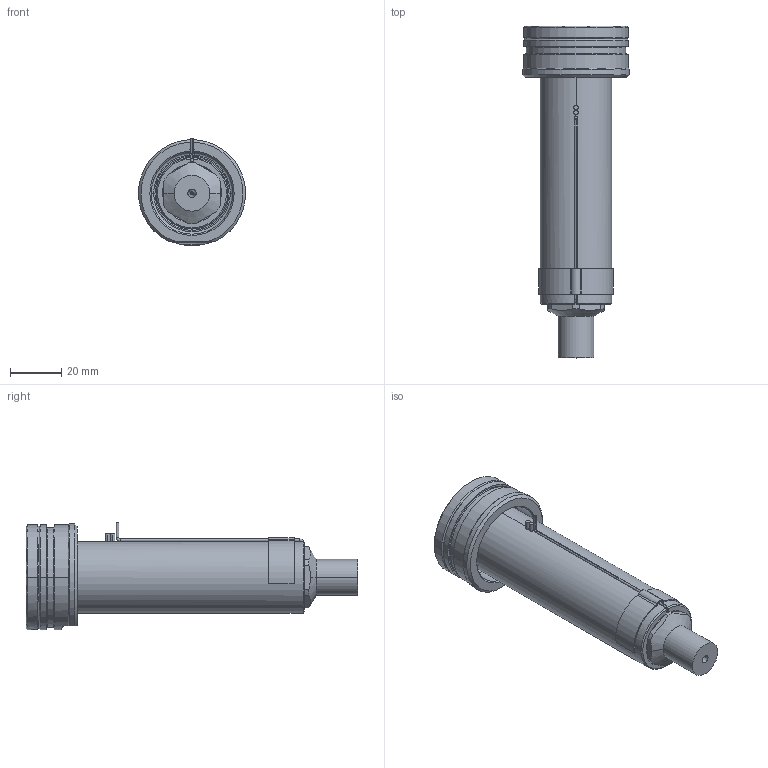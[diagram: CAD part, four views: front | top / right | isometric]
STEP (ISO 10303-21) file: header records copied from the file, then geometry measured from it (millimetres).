
FILE_DESCRIPTION((''),'2;1');
FILE_NAME('EO10_PG-FBE_WR_100_SW','2024-02-19T12:00:20',('sundharh'),(''),'CREO PARAMETRIC BY PTC INC, 2023154','CREO PARAMETRIC BY PTC INC, 2023154','');
FILE_SCHEMA(('CONFIG_CONTROL_DESIGN'));
Length unit declared in the file: millimetre
Products named in the file (1): EO10_PG-FBE_WR_100_SW
Bounding box: 41.85 x 130 x 42.02 mm (x, y, z)
Volume: 74561.4 mm3; surface area: 21998.8 mm2
Topology: 1 solids, 1 shells, 203 faces, 548 edges, 340 vertices
Faces by surface type: cylinder 80, plane 59, cone 41, torus 17, bspline 3, sphere 3
Entity records: 7435 total; most frequent: CARTESIAN_POINT 2225, DIRECTION 1138, ORIENTED_EDGE 1088, EDGE_CURVE 544, AXIS2_PLACEMENT_3D 474, VERTEX_POINT 340, CIRCLE 274, EDGE_LOOP 220
